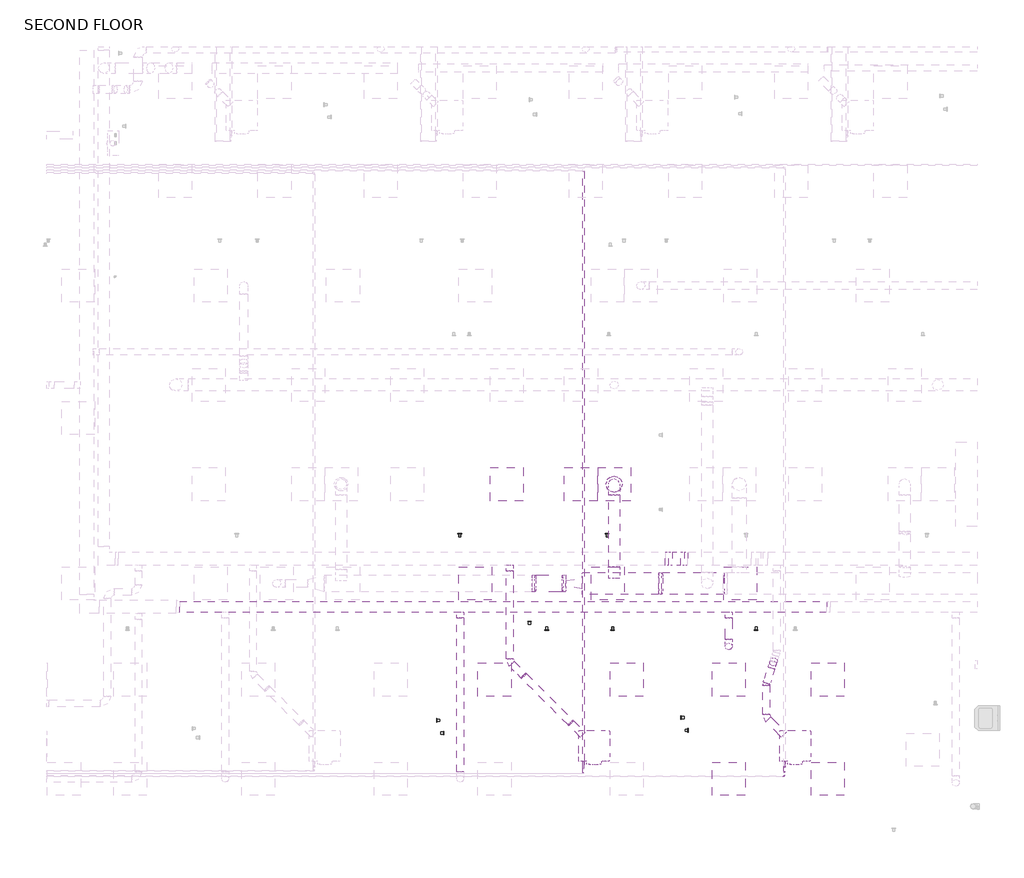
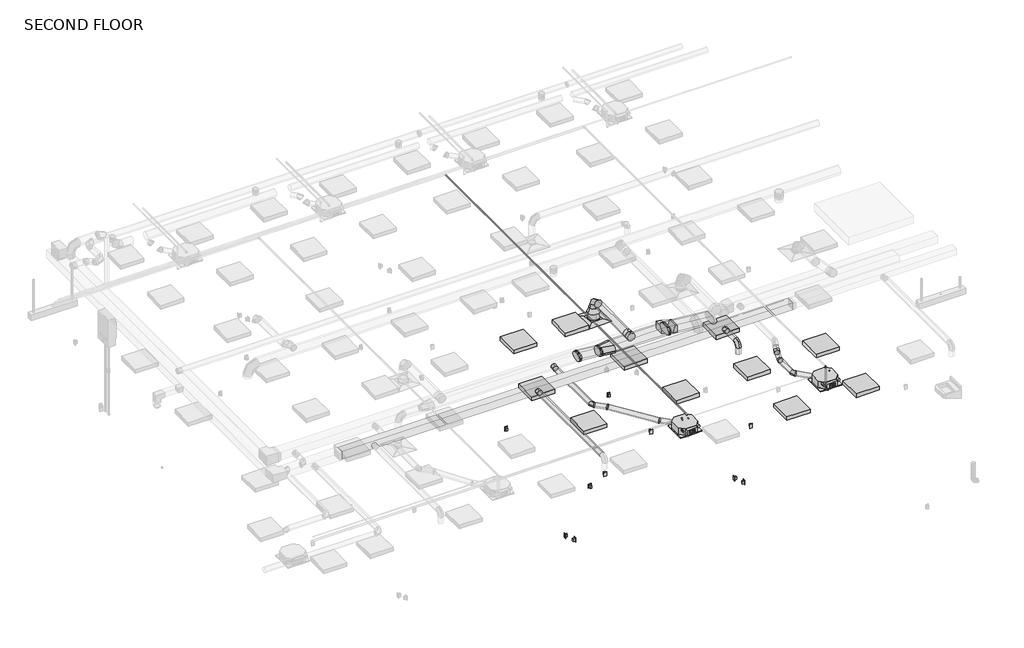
# One storey, part 3 of 12: 19 duct fittings, 18 duct segments, 11 light fixtures, 9 proxies, 6 pipe segments, 4 pipe fittings, 3 switching devices, 1 air terminal.
"""IFC4 building model written with IfcOpenShell, lengths in millimetres."""

from ifc_helpers import new_model, si_unit, point, frame, frame_2d, origin, place, context, project, spatial, polyline, circle_curve, trimmed, segment, composite_curve, outline, extrude, transform, mapped, element, save
from components import air_terminal_78ffba46, mechanical_equipment_2d84379e, duplex_receptacle_countertop_10251bba, oval_elbow_mitered_standard_5b12be7a, oval_elbow_mitered_standard_605f781d, oval_transition_length_standard_f0f2b33e, rectangular_elbow_radius_1_5_w_3731340f, round_elbow_1_d_01278626, round_elbow_1_d_075332d1, round_elbow_1_d_a253342a, round_elbow_1_d_c80420c1, round_elbow_1_d_e3dc691b, round_takeoff_standard_53c2403a, round_takeoff_standard_7fe2b2d5, round_transition_angle_45_degree_1597dbae, troffer_corner_insert_2x2_3lamp_e67c7f8f, elbow_generic_standard_c06ac706, elbow_generic_standard_a088f956

model = new_model("IFC4")

# Units and contexts
model_context = context("Model", 3, world=origin())
ifc_project = project(units=[si_unit("LENGTHUNIT", "METRE", prefix="MILLI")], contexts=[model_context])

# Site, building, storey
site = spatial("IfcSite", under=ifc_project)
building = spatial("IfcBuilding", under=site)
storey = spatial("IfcBuildingStorey", under=building, Name="SECOND FLOOR", Elevation=34544.0)

# Air terminal
placement = place(None, origin())
air_terminal_shape = air_terminal_78ffba46(model_context)
element("IfcAirTerminal", 1, ObjectType="Supply Diffuser - Rectangular Face Round Neck - Hosted : 24\"x24\" Face 12\" Neck - Hosted", at=placement, inside=storey, context=model_context, shape_type="MappedRepresentation", body=[
    mapped(air_terminal_shape, transform((3364.8670393, -751.4804995, 37287.2), x_axis=(-1.0, 0.0, 0.0), y_axis=(0.0, 1.0, 0.0), z_axis=(0.0, 0.0, -1.0))),
])

# Proxies
mechanical_equipment_shape = mechanical_equipment_2d84379e(model_context)
element("IfcBuildingElementProxy", 2, Name="PLFY-P-NCMU-E_4-way_24x24 : PLFY-P12NCMU-E", ObjectType="PLFY-P-NCMU-E_4-way_24x24 : PLFY-P12NCMU-E", at=placement, inside=storey, context=model_context, shape_type="MappedRepresentation", body=[
    mapped(mechanical_equipment_shape, transform((2996.0907893, -5508.0657082, 37287.2), x_axis=(-1.0, 0.0, 0.0), y_axis=(0.0, 1.0, 0.0), z_axis=(0.0, 0.0, -1.0))),
])
element("IfcBuildingElementProxy", 3, Name="PLFY-P-NCMU-E_4-way_24x24 : PLFY-P12NCMU-E", ObjectType="PLFY-P-NCMU-E_4-way_24x24 : PLFY-P12NCMU-E", at=placement, inside=storey, context=model_context, shape_type="MappedRepresentation", body=[
    mapped(mechanical_equipment_shape, transform((6698.9345393, -5508.0657082, 37287.2), x_axis=(-1.0, 0.0, 0.0), y_axis=(0.0, 1.0, 0.0), z_axis=(0.0, 0.0, -1.0))),
])
duplex_receptacle_countertop_shape = duplex_receptacle_countertop_10251bba(model_context)
element("IfcBuildingElementProxy", 4, Name="Duplex Receptacle : Standard", ObjectType="Duplex Receptacle : Standard", at=placement, inside=storey, context=model_context, shape_type="MappedRepresentation", body=[
    mapped(duplex_receptacle_countertop_shape, transform((101.6170393, -5102.6743878, 35001.2), x_axis=(0.0, -1.0, 0.0), y_axis=(0.0, 0.0, 1.0), z_axis=(-1.0, 0.0, 0.0))),
])
element("IfcBuildingElementProxy", 5, Name="Duplex Receptacle : Standard", ObjectType="Duplex Receptacle : Standard", at=placement, inside=storey, context=model_context, shape_type="MappedRepresentation", body=[
    mapped(duplex_receptacle_countertop_shape, transform((225.4420393, -5337.3044193, 35001.2), x_axis=(0.0, 1.0, 0.0), y_axis=(0.0, 0.0, 1.0), z_axis=(1.0, 0.0, 0.0))),
])
element("IfcBuildingElementProxy", 6, Name="Duplex Receptacle : Standard", ObjectType="Duplex Receptacle : Standard", at=placement, inside=storey, context=model_context, shape_type="MappedRepresentation", body=[
    mapped(duplex_receptacle_countertop_shape, transform((4601.6170393, -5052.3965239, 35001.2), x_axis=(0.0, -1.0, 0.0), y_axis=(0.0, 0.0, 1.0), z_axis=(-1.0, 0.0, 0.0))),
])
element("IfcBuildingElementProxy", 7, Name="Duplex Receptacle : Standard", ObjectType="Duplex Receptacle : Standard", at=placement, inside=storey, context=model_context, shape_type="MappedRepresentation", body=[
    mapped(duplex_receptacle_countertop_shape, transform((4725.4420393, -5287.0265554, 35001.2), x_axis=(0.0, 1.0, 0.0), y_axis=(0.0, 0.0, 1.0), z_axis=(1.0, 0.0, 0.0))),
])
element("IfcBuildingElementProxy", 8, Name="Duplex Receptacle : Standard", ObjectType="Duplex Receptacle : Standard", at=placement, inside=storey, context=model_context, shape_type="MappedRepresentation", body=[
    mapped(duplex_receptacle_countertop_shape, transform((2124.9845443, -3437.5304995, 35001.2), x_axis=(1.0, 0.0, 0.0), y_axis=(0.0, 0.0, 1.0), z_axis=(0.0, -1.0, 0.0))),
])
element("IfcBuildingElementProxy", 9, Name="Duplex Receptacle : Standard", ObjectType="Duplex Receptacle : Standard", at=placement, inside=storey, context=model_context, shape_type="MappedRepresentation", body=[
    mapped(duplex_receptacle_countertop_shape, transform((5979.6207761, -3437.5304995, 35001.2), x_axis=(1.0, 0.0, 0.0), y_axis=(0.0, 0.0, 1.0), z_axis=(0.0, -1.0, 0.0))),
])
element("IfcBuildingElementProxy", 10, Name="Duplex Receptacle : Standard", ObjectType="Duplex Receptacle : Standard", at=placement, inside=storey, context=model_context, shape_type="MappedRepresentation", body=[
    mapped(duplex_receptacle_countertop_shape, transform((1806.558073, -3281.9554995, 34696.4), x_axis=(-1.0, 0.0, 0.0), y_axis=(0.0, 0.0, 1.0), z_axis=(0.0, 1.0, 0.0))),
])

# Duct fittings
oval_elbow_mitered_standard_shape = oval_elbow_mitered_standard_5b12be7a(model_context)
element("IfcDuctFitting", 11, ObjectType="Oval Elbow - Mitered : Standard", at=placement, inside=storey, context=model_context, shape_type="MappedRepresentation", body=[
    mapped(oval_elbow_mitered_standard_shape, transform((2445.3076643, -2580.2804995, 37820.6), x_axis=(-1.0, 0.0, 0.0), y_axis=(0.0, 0.0, 1.0), z_axis=(0.0, 1.0, 0.0))),
])
element("IfcDuctFitting", 12, ObjectType="Oval Elbow - Mitered : Standard", at=placement, inside=storey, context=model_context, shape_type="MappedRepresentation", body=[
    mapped(oval_elbow_mitered_standard_shape, transform((1883.5093571, -2580.2804995, 37872.9293609), x_axis=(1.0, 0.0, 0.0), y_axis=(0.0, 0.0, -1.0), z_axis=(0.0, 1.0, 0.0))),
])
oval_elbow_mitered_standard_2_shape = oval_elbow_mitered_standard_605f781d(model_context)
element("IfcDuctFitting", 13, ObjectType="Oval Elbow - Mitered : Standard", at=placement, inside=storey, context=model_context, shape_type="MappedRepresentation", body=[
    mapped(oval_elbow_mitered_standard_2_shape, transform((4219.891752, -2580.2804995, 37820.6), x_axis=(1.0, 0.0, 0.0), y_axis=(0.0, 0.0, -1.0), z_axis=(0.0, 1.0, 0.0))),
])
oval_transition_length_standard_shape = oval_transition_length_standard_f0f2b33e(model_context)
element("IfcDuctFitting", 14, ObjectType="Oval Transition - Length : Standard", at=placement, inside=storey, context=model_context, shape_type="MappedRepresentation", body=[
    mapped(oval_transition_length_standard_shape, transform((2780.2292705, -2580.2804995, 37820.6), x_axis=(-1.0, 0.0, 0.0), y_axis=(0.0, -1.0, 0.0), z_axis=(0.0, 0.0, 1.0))),
])
rectangular_elbow_radius_1_5_w_shape = rectangular_elbow_radius_1_5_w_3731340f(model_context)
element("IfcDuctFitting", 15, ObjectType="Rectangular Elbow - Radius : 1.5 W", at=placement, inside=storey, context=model_context, shape_type="MappedRepresentation", body=[
    mapped(rectangular_elbow_radius_1_5_w_shape, transform((4671.7764464, -2123.0804995, 37439.6), x_axis=(-1.0, 0.0, 0.0), y_axis=(0.0, 0.0, 1.0), z_axis=(0.0, 1.0, 0.0))),
])
element("IfcDuctFitting", 16, ObjectType="Rectangular Elbow - Radius : 1.5 W", at=placement, inside=storey, context=model_context, shape_type="MappedRepresentation", body=[
    mapped(rectangular_elbow_radius_1_5_w_shape, transform((4358.7795985, -2123.0804995, 37541.2), x_axis=(1.0, 0.0, 0.0), y_axis=(0.0, 0.0, -1.0), z_axis=(0.0, 1.0, 0.0))),
])
round_elbow_1_d_shape = round_elbow_1_d_01278626(model_context)
element("IfcDuctFitting", 17, ObjectType="Round Elbow : 1 D", at=placement, inside=storey, context=model_context, shape_type="MappedRepresentation", body=[
    mapped(round_elbow_1_d_shape, transform((6168.7489409, -4436.9011511, 37381.259375), x_axis=(-0.3033014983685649, -0.9528946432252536, 0.0), y_axis=(0.9528946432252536, -0.3033014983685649, 0.0), z_axis=(0.0, 0.0, 1.0))),
])
round_elbow_1_d_2_shape = round_elbow_1_d_075332d1(model_context)
element("IfcDuctFitting", 18, ObjectType="Round Elbow : 1 D", at=placement, inside=storey, context=model_context, shape_type="MappedRepresentation", body=[
    mapped(round_elbow_1_d_2_shape, transform((1698.7492739, -4279.3452341, 37541.2), x_axis=(0.7071067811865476, -0.7071067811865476, 0.0), y_axis=(0.0, 0.0, -1.0000000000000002), z_axis=(0.7071067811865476, 0.7071067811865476, 0.0))),
])
element("IfcDuctFitting", 19, ObjectType="Round Elbow : 1 D", at=placement, inside=storey, context=model_context, shape_type="MappedRepresentation", body=[
    mapped(round_elbow_1_d_2_shape, transform((2569.7985692, -5150.3945294, 37381.2593852), x_axis=(0.7012209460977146, -0.7012209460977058, -0.12875701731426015), y_axis=(0.09104496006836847, -0.09104496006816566, 0.9916761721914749), z_axis=(-0.7071067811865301, -0.707106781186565, 0.0))),
])
round_elbow_1_d_3_shape = round_elbow_1_d_a253342a(model_context)
element("IfcDuctFitting", 20, ObjectType="Round Elbow : 1 D", at=placement, inside=storey, context=model_context, shape_type="MappedRepresentation", body=[
    mapped(round_elbow_1_d_3_shape, transform((3364.8670393, -751.4804995, 37820.6), x_axis=(0.0, 0.0, 1.0), y_axis=(0.0, -1.0, 0.0), z_axis=(1.0, 0.0, 0.0))),
])
round_elbow_1_d_4_shape = round_elbow_1_d_c80420c1(model_context)
element("IfcDuctFitting", 21, ObjectType="Round Elbow : 1 D", at=placement, inside=storey, context=model_context, shape_type="MappedRepresentation", body=[
    mapped(round_elbow_1_d_4_shape, transform((5474.1782893, -3742.3304995, 37693.6), x_axis=(0.0, 0.0, 1.0), y_axis=(0.0, 1.0, 0.0), z_axis=(-1.0, 0.0, 0.0))),
])
round_elbow_1_d_5_shape = round_elbow_1_d_e3dc691b(model_context)
element("IfcDuctFitting", 22, ObjectType="Round Elbow : 1 D", at=placement, inside=storey, context=model_context, shape_type="MappedRepresentation", body=[
    mapped(round_elbow_1_d_5_shape, transform((1442.1559931, -4022.7519533, 37541.2), x_axis=(0.0, -1.0, 0.0), y_axis=(1.0, 0.0, 0.0), z_axis=(0.0, 0.0, 1.0))),
])
element("IfcDuctFitting", 23, ObjectType="Round Elbow : 1 D", at=placement, inside=storey, context=model_context, shape_type="MappedRepresentation", body=[
    mapped(round_elbow_1_d_5_shape, transform((6168.7489409, -5046.5011511, 37381.259375), x_axis=(0.0, -1.0, 0.0), y_axis=(0.9999999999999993, 0.0, 3.167850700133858e-08), z_axis=(-3.167850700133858e-08, 0.0, 0.9999999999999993))),
])
element("IfcDuctFitting", 24, ObjectType="Round Elbow : 1 D", at=placement, inside=storey, context=model_context, shape_type="MappedRepresentation", body=[
    mapped(round_elbow_1_d_5_shape, transform((6279.2252508, -4089.8132385, 37381.259375), x_axis=(-0.21446654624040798, -0.6737982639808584, -0.707106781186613), y_axis=(-0.21446654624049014, -0.6737982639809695, 0.7071067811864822), z_axis=(-0.9528946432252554, 0.3033014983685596, 0.0))),
])
round_takeoff_standard_shape = round_takeoff_standard_53c2403a(model_context)
element("IfcDuctFitting", 25, ObjectType="Round Takeoff : Standard", at=placement, inside=storey, context=model_context, shape_type="MappedRepresentation", body=[
    mapped(round_takeoff_standard_shape, transform((3364.8670393, -2377.0804995, 37820.6), x_axis=(0.0, 1.0, 0.0), y_axis=(1.0, 0.0, 0.0), z_axis=(0.0, 0.0, -1.0))),
])
round_takeoff_standard_2_shape = round_takeoff_standard_7fe2b2d5(model_context)
element("IfcDuctFitting", 26, ObjectType="Round Takeoff : Standard", at=placement, inside=storey, context=model_context, shape_type="MappedRepresentation", body=[
    mapped(round_takeoff_standard_2_shape, transform((5474.1782893, -3111.8706668, 37693.6), x_axis=(0.0, -1.0, 0.0), y_axis=(-1.0, 0.0, 0.0), z_axis=(0.0, 0.0, -1.0))),
])
element("IfcDuctFitting", 27, ObjectType="Round Takeoff : Standard", at=placement, inside=storey, context=model_context, shape_type="MappedRepresentation", body=[
    mapped(round_takeoff_standard_2_shape, transform((530.2420393, -3111.8706668, 37693.6), x_axis=(0.0, -1.0, 0.0), y_axis=(-1.0, 0.0, 0.0), z_axis=(0.0, 0.0, -1.0))),
])
element("IfcDuctFitting", 28, ObjectType="Round Takeoff : Standard", at=placement, inside=storey, context=model_context, shape_type="MappedRepresentation", body=[
    mapped(round_takeoff_standard_2_shape, transform((1442.1559931, -2250.0804995, 37541.2), x_axis=(0.0, -1.0, 0.0), y_axis=(-1.0, 0.0, 0.0), z_axis=(0.0, 0.0, -1.0))),
])
round_transition_angle_45_degree_shape = round_transition_angle_45_degree_1597dbae(model_context)
element("IfcDuctFitting", 29, ObjectType="Round Transition - Angle : 45 Degree", at=placement, inside=storey, context=model_context, shape_type="MappedRepresentation", body=[
    mapped(round_transition_angle_45_degree_shape, transform((3364.8670393, -751.4804995, 37494.757951), x_axis=(0.0, 0.0, 1.0), y_axis=(1.0, 0.0, 0.0), z_axis=(0.0, 1.0, 0.0))),
])

# Duct segments
element("IfcDuctSegment", 30, ObjectType="Mitered Elbows / Taps", at=placement, inside=storey, context=model_context, shape_type="SweptSolid", body=[
    extrude(outline(composite_curve([segment(trimmed(circle_curve(frame_2d((-2478.6804995, 37820.6)), 101.6), [point((-2478.6804995, 37922.2))], [point((-2377.0804995, 37820.6))], False, "CARTESIAN"), True, "CONTINUOUS"), segment(trimmed(circle_curve(frame_2d((-2478.6804995, 37820.6)), 101.6), [point((-2377.0804995, 37820.6))], [point((-2478.6804995, 37719.0))], False, "CARTESIAN"), True, "CONTINUOUS"), segment(polyline([(-2478.6804995, 37719.0), (-2681.8804995, 37719.0)]), True, "CONTINUOUS"), segment(trimmed(circle_curve(frame_2d((-2681.8804995, 37820.6)), 101.6), [point((-2681.8804995, 37719.0))], [point((-2783.4804995, 37820.6))], False, "CARTESIAN"), True, "CONTINUOUS"), segment(trimmed(circle_curve(frame_2d((-2681.8804995, 37820.6)), 101.6), [point((-2783.4804995, 37820.6))], [point((-2681.8804995, 37922.2))], False, "CARTESIAN"), True, "CONTINUOUS"), segment(polyline([(-2681.8804995, 37922.2), (-2478.6804995, 37922.2)]), True, "CONTINUOUS")], self_intersect=False)), frame((2780.2292705, 0.0, 0.0), z_axis=(1.0, 0.0, 0.0), x_axis=(0.0, 1.0, 0.0)), (0.0, 0.0, 1.0), 1409.6291269),
])
element("IfcDuctSegment", 31, ObjectType="Mitered Elbows / Taps", at=placement, inside=storey, context=model_context, shape_type="SweptSolid", body=[
    extrude(outline(polyline([(-4638.1666561, -3111.8706668), (-4638.1666561, -2908.6706668), (7283.5019781, -2908.6706668), (7283.5019781, -3111.8706668), (-4638.1666561, -3111.8706668)])), frame((0.0, 0.0, 37592.0), z_axis=(0.0, 0.0, 1.0), x_axis=(1.0, 0.0, 0.0)), (0.0, 0.0, 1.0), 203.2),
])
element("IfcDuctSegment", 32, ObjectType="Mitered Elbows / Taps", at=placement, inside=storey, context=model_context, shape_type="SweptSolid", body=[
    extrude(outline(composite_curve([segment(polyline([(101.6000001, 203.2), (101.6000001, 101.6)]), True, "CONTINUOUS"), segment(trimmed(circle_curve(frame_2d((0.0, 101.6)), 101.6), [point((101.6000001, 101.6))], [point((0.0, 0.0))], False, "CARTESIAN"), True, "CONTINUOUS"), segment(trimmed(circle_curve(frame_2d((0.0, 101.6)), 101.6), [point((0.0, 0.0))], [point((-101.6, 101.6))], False, "CARTESIAN"), True, "CONTINUOUS"), segment(polyline([(-101.6, 101.6), (-101.6, 203.2)]), True, "CONTINUOUS"), segment(trimmed(circle_curve(frame_2d((0.0, 203.2)), 101.6), [point((-101.6, 203.2))], [point((0.0, 304.8))], False, "CARTESIAN"), True, "CONTINUOUS"), segment(trimmed(circle_curve(frame_2d((0.0, 203.2)), 101.6), [point((0.0, 304.8))], [point((101.6000001, 203.2))], False, "CARTESIAN"), True, "CONTINUOUS")], self_intersect=False)), frame((2415.3158846, -2732.6804995, 37823.3936194), z_axis=(-0.9956899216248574, 0.0, 0.09274470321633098), x_axis=(0.09274470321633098, 0.0, 0.9956899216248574)), (0.0, 0.0, 1.0), 503.9869712),
])
element("IfcDuctSegment", 33, ObjectType="Mitered Elbows / Taps", at=placement, inside=storey, context=model_context, shape_type="SweptSolid", body=[
    extrude(outline(composite_curve([segment(polyline([(101.6, 304.8), (101.6, 101.6)]), True, "CONTINUOUS"), segment(trimmed(circle_curve(frame_2d((0.0, 101.6)), 101.6), [point((101.6, 101.6))], [point((0.0, 0.0))], False, "CARTESIAN"), True, "CONTINUOUS"), segment(trimmed(circle_curve(frame_2d((0.0, 101.6)), 101.6), [point((0.0, 0.0))], [point((-101.6000001, 101.6))], False, "CARTESIAN"), True, "CONTINUOUS"), segment(polyline([(-101.6000001, 101.6), (-101.6000001, 304.8)]), True, "CONTINUOUS"), segment(trimmed(circle_curve(frame_2d((0.0, 304.8)), 101.6), [point((-101.6000001, 304.8))], [point((0.0, 406.4))], False, "CARTESIAN"), True, "CONTINUOUS"), segment(trimmed(circle_curve(frame_2d((0.0, 304.8)), 101.6), [point((0.0, 406.4))], [point((101.6, 304.8))], False, "CARTESIAN"), True, "CONTINUOUS")], self_intersect=False)), frame((5387.0654619, -2783.4804995, 37713.922833), z_axis=(-0.9958492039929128, 0.0, 0.09101847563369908), x_axis=(0.09101847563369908, 0.0, 0.9958492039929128)), (0.0, 0.0, 1.0), 1142.0052485),
])
element("IfcDuctSegment", 34, ObjectType="Radius Elbows / Taps", at=placement, inside=storey, context=model_context, shape_type="SweptSolid", body=[
    extrude(outline(polyline([(0.0, -254.0), (0.0, 0.0), (232.6119283, 0.0), (232.6119283, -254.0), (0.0, -254.0)])), frame((4594.533307, -2250.0804995, 37357.8547731), z_axis=(0.30874530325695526, 0.0, 0.9511447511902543), x_axis=(-0.9511447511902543, 0.0, 0.30874530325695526)), (0.0, 0.0, 1.0), 203.2),
])
element("IfcDuctSegment", 35, ObjectType="Taps / Short Radius", at=placement, inside=storey, context=model_context, shape_type="SweptSolid", body=[
    extrude(outline(composite_curve([segment(trimmed(circle_curve(frame_2d((37820.6, 3364.8670393)), 101.6), [point((37820.6, 3263.2670393))], [point((37719.0, 3364.8670393))], False, "CARTESIAN"), True, "CONTINUOUS"), segment(trimmed(circle_curve(frame_2d((37820.6, 3364.8670393)), 101.6), [point((37719.0, 3364.8670393))], [point((37820.6, 3466.4670393))], False, "CARTESIAN"), True, "CONTINUOUS"), segment(trimmed(circle_curve(frame_2d((37820.6, 3364.8670393)), 101.6), [point((37820.6, 3466.4670393))], [point((37922.2, 3364.8670393))], False, "CARTESIAN"), True, "CONTINUOUS"), segment(trimmed(circle_curve(frame_2d((37820.6, 3364.8670393)), 101.6), [point((37922.2, 3364.8670393))], [point((37820.6, 3263.2670393))], False, "CARTESIAN"), True, "CONTINUOUS")], self_intersect=False)), frame((0.0, -2275.4804995, 0.0), z_axis=(0.0, 1.0, 0.0), x_axis=(0.0, 0.0, 1.0)), (0.0, 0.0, 1.0), 1320.8),
])
element("IfcDuctSegment", 36, ObjectType="Taps / Short Radius", at=placement, inside=storey, context=model_context, shape_type="SweptSolid", body=[
    extrude(outline(composite_curve([segment(trimmed(circle_curve(frame_2d((37693.6, 5474.1782893)), 63.5), [point((37693.6, 5410.6782893))], [point((37630.1, 5474.1782893))], False, "CARTESIAN"), True, "CONTINUOUS"), segment(trimmed(circle_curve(frame_2d((37693.6, 5474.1782893)), 63.5), [point((37630.1, 5474.1782893))], [point((37693.6, 5537.6782893))], False, "CARTESIAN"), True, "CONTINUOUS"), segment(trimmed(circle_curve(frame_2d((37693.6, 5474.1782893)), 63.5), [point((37693.6, 5537.6782893))], [point((37757.1, 5474.1782893))], False, "CARTESIAN"), True, "CONTINUOUS"), segment(trimmed(circle_curve(frame_2d((37693.6, 5474.1782893)), 63.5), [point((37757.1, 5474.1782893))], [point((37693.6, 5410.6782893))], False, "CARTESIAN"), True, "CONTINUOUS")], self_intersect=False)), frame((0.0, -3615.3304995, 0.0), z_axis=(0.0, 1.0, 0.0), x_axis=(0.0, 0.0, 1.0)), (0.0, 0.0, 1.0), 401.8598327),
])
element("IfcDuctSegment", 37, ObjectType="Taps / Short Radius", at=placement, inside=storey, context=model_context, shape_type="SweptSolid", body=[
    extrude(outline(composite_curve([segment(trimmed(circle_curve(frame_2d((5474.1782893, -3742.3304995)), 63.5), [point((5537.6782893, -3742.3304995))], [point((5474.1782893, -3805.8304995))], False, "CARTESIAN"), True, "CONTINUOUS"), segment(trimmed(circle_curve(frame_2d((5474.1782893, -3742.3304995)), 63.5), [point((5474.1782893, -3805.8304995))], [point((5410.6782893, -3742.3304995))], False, "CARTESIAN"), True, "CONTINUOUS"), segment(trimmed(circle_curve(frame_2d((5474.1782893, -3742.3304995)), 63.5), [point((5410.6782893, -3742.3304995))], [point((5474.1782893, -3678.8304995))], False, "CARTESIAN"), True, "CONTINUOUS"), segment(trimmed(circle_curve(frame_2d((5474.1782893, -3742.3304995)), 63.5), [point((5474.1782893, -3678.8304995))], [point((5537.6782893, -3742.3304995))], False, "CARTESIAN"), True, "CONTINUOUS")], self_intersect=False)), frame((0.0, 0.0, 37388.8), z_axis=(0.0, 0.0, 1.0), x_axis=(1.0, 0.0, 0.0)), (0.0, 0.0, 1.0), 177.8),
])
element("IfcDuctSegment", 38, ObjectType="Taps / Short Radius", at=placement, inside=storey, context=model_context, shape_type="SweptSolid", body=[
    extrude(outline(composite_curve([segment(trimmed(circle_curve(frame_2d((37693.6, 530.2420393)), 63.5), [point((37693.6, 466.7420393))], [point((37630.1, 530.2420393))], False, "CARTESIAN"), True, "CONTINUOUS"), segment(trimmed(circle_curve(frame_2d((37693.6, 530.2420393)), 63.5), [point((37630.1, 530.2420393))], [point((37693.6, 593.7420393))], False, "CARTESIAN"), True, "CONTINUOUS"), segment(trimmed(circle_curve(frame_2d((37693.6, 530.2420393)), 63.5), [point((37693.6, 593.7420393))], [point((37757.1, 530.2420393))], False, "CARTESIAN"), True, "CONTINUOUS"), segment(trimmed(circle_curve(frame_2d((37693.6, 530.2420393)), 63.5), [point((37757.1, 530.2420393))], [point((37693.6, 466.7420393))], False, "CARTESIAN"), True, "CONTINUOUS")], self_intersect=False)), frame((0.0, -6053.7304995, 0.0), z_axis=(0.0, 1.0, 0.0), x_axis=(0.0, 0.0, 1.0)), (0.0, 0.0, 1.0), 2840.2598327),
])
element("IfcDuctSegment", 39, ObjectType="Taps / Short Radius", at=placement, inside=storey, context=model_context, shape_type="SweptSolid", body=[
    extrude(outline(composite_curve([segment(trimmed(circle_curve(frame_2d((37541.2, 1442.1559931)), 63.5), [point((37541.2, 1378.6559931))], [point((37477.7, 1442.1559931))], False, "CARTESIAN"), True, "CONTINUOUS"), segment(trimmed(circle_curve(frame_2d((37541.2, 1442.1559931)), 63.5), [point((37477.7, 1442.1559931))], [point((37541.2, 1505.6559931))], False, "CARTESIAN"), True, "CONTINUOUS"), segment(trimmed(circle_curve(frame_2d((37541.2, 1442.1559931)), 63.5), [point((37541.2, 1505.6559931))], [point((37604.7, 1442.1559931))], False, "CARTESIAN"), True, "CONTINUOUS"), segment(trimmed(circle_curve(frame_2d((37541.2, 1442.1559931)), 63.5), [point((37604.7, 1442.1559931))], [point((37541.2, 1378.6559931))], False, "CARTESIAN"), True, "CONTINUOUS")], self_intersect=False)), frame((0.0, -3970.1468308, 0.0), z_axis=(0.0, 1.0, 0.0), x_axis=(0.0, 0.0, 1.0)), (0.0, 0.0, 1.0), 1618.4663314),
])
element("IfcDuctSegment", 40, ObjectType="Taps / Short Radius", at=placement, inside=storey, context=model_context, shape_type="SweptSolid", body=[
    extrude(outline(composite_curve([segment(trimmed(circle_curve(frame_2d((3364.8670393, -751.4804995)), 152.4), [point((3517.2670393, -751.4804995))], [point((3364.8670393, -903.8804995))], False, "CARTESIAN"), True, "CONTINUOUS"), segment(trimmed(circle_curve(frame_2d((3364.8670393, -751.4804995)), 152.4), [point((3364.8670393, -903.8804995))], [point((3212.4670393, -751.4804995))], False, "CARTESIAN"), True, "CONTINUOUS"), segment(trimmed(circle_curve(frame_2d((3364.8670393, -751.4804995)), 152.4), [point((3212.4670393, -751.4804995))], [point((3364.8670393, -599.0804995))], False, "CARTESIAN"), True, "CONTINUOUS"), segment(trimmed(circle_curve(frame_2d((3364.8670393, -751.4804995)), 152.4), [point((3364.8670393, -599.0804995))], [point((3517.2670393, -751.4804995))], False, "CARTESIAN"), True, "CONTINUOUS")], self_intersect=False)), frame((0.0, 0.0, 37341.175), z_axis=(0.0, 0.0, 1.0), x_axis=(1.0, 0.0, 0.0)), (0.0, 0.0, 1.0), 153.582951),
])
element("IfcDuctSegment", 41, ObjectType="Taps / Short Radius", at=placement, inside=storey, context=model_context, shape_type="SweptSolid", body=[
    extrude(outline(composite_curve([segment(trimmed(circle_curve(frame_2d((0.0, 63.5)), 63.5), [point((63.5, 63.5))], [point((0.0, 0.0))], False, "CARTESIAN"), True, "CONTINUOUS"), segment(trimmed(circle_curve(frame_2d((0.0, 63.5)), 63.5), [point((0.0, 0.0))], [point((-63.5, 63.5))], False, "CARTESIAN"), True, "CONTINUOUS"), segment(trimmed(circle_curve(frame_2d((0.0, 63.5)), 63.5), [point((-63.5, 63.5))], [point((0.0, 127.0))], False, "CARTESIAN"), True, "CONTINUOUS"), segment(trimmed(circle_curve(frame_2d((0.0, 63.5)), 63.5), [point((0.0, 127.0))], [point((63.5, 63.5))], False, "CARTESIAN"), True, "CONTINUOUS")], self_intersect=False)), frame((6492.0381612, -5369.7903714, 37444.7593852), z_axis=(-0.7071067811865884, 0.7071067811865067, 0.0), x_axis=(0.7071067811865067, 0.7071067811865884, 0.0)), (0.0, 0.0, 1.0), 404.5948776),
])
element("IfcDuctSegment", 42, ObjectType="Taps / Short Radius", at=placement, inside=storey, context=model_context, shape_type="SweptSolid", body=[
    extrude(outline(composite_curve([segment(trimmed(circle_curve(frame_2d((37381.259375, 6168.7489409)), 63.5), [point((37381.259375, 6232.2489409))], [point((37444.759375, 6168.7489409))], False, "CARTESIAN"), True, "CONTINUOUS"), segment(trimmed(circle_curve(frame_2d((37381.259375, 6168.7489409)), 63.5), [point((37444.759375, 6168.7489409))], [point((37381.259375, 6105.2489409))], False, "CARTESIAN"), True, "CONTINUOUS"), segment(trimmed(circle_curve(frame_2d((37381.259375, 6168.7489409)), 63.5), [point((37381.259375, 6105.2489409))], [point((37317.759375, 6168.7489409))], False, "CARTESIAN"), True, "CONTINUOUS"), segment(trimmed(circle_curve(frame_2d((37381.259375, 6168.7489409)), 63.5), [point((37317.759375, 6168.7489409))], [point((37381.259375, 6232.2489409))], False, "CARTESIAN"), True, "CONTINUOUS")], self_intersect=False)), frame((0.0, -4993.8960286, 0.0), z_axis=(0.0, 1.0, 0.0), x_axis=(0.0, 0.0, 1.0)), (0.0, 0.0, 1.0), 537.2706746),
])
element("IfcDuctSegment", 43, ObjectType="Taps / Short Radius", at=placement, inside=storey, context=model_context, shape_type="SweptSolid", body=[
    extrude(outline(composite_curve([segment(trimmed(circle_curve(frame_2d((0.0, -63.5)), 63.5), [point((-63.5, -63.5))], [point((0.0, 0.0))], False, "CARTESIAN"), True, "CONTINUOUS"), segment(trimmed(circle_curve(frame_2d((0.0, -63.5)), 63.5), [point((0.0, 0.0))], [point((63.5, -63.5))], False, "CARTESIAN"), True, "CONTINUOUS"), segment(trimmed(circle_curve(frame_2d((0.0, -63.5)), 63.5), [point((63.5, -63.5))], [point((0.0, -127.0))], False, "CARTESIAN"), True, "CONTINUOUS"), segment(trimmed(circle_curve(frame_2d((0.0, -63.5)), 63.5), [point((0.0, -127.0))], [point((-63.5, -63.5))], False, "CARTESIAN"), True, "CONTINUOUS")], self_intersect=False)), frame((6174.7313212, -4418.1060637, 37317.759375), z_axis=(0.3033014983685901, 0.9528946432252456, 0.0), x_axis=(0.9528946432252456, -0.3033014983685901, 0.0)), (0.0, 0.0, 1.0), 291.9165176),
])
element("IfcDuctSegment", 44, ObjectType="Taps / Short Radius", at=placement, inside=storey, context=model_context, shape_type="SweptSolid", body=[
    extrude(outline(composite_curve([segment(trimmed(circle_curve(frame_2d((0.0, -63.5)), 63.5), [point((61.9503108, -77.4430621))], [point((-13.9430621, -125.4503108))], False, "CARTESIAN"), True, "CONTINUOUS"), segment(trimmed(circle_curve(frame_2d((0.0, -63.5)), 63.5), [point((-13.9430621, -125.4503108))], [point((-61.9503109, -49.5569378))], False, "CARTESIAN"), True, "CONTINUOUS"), segment(trimmed(circle_curve(frame_2d((0.0, -63.5)), 63.5), [point((-61.9503109, -49.5569378))], [point((13.943062, -1.5496891))], False, "CARTESIAN"), True, "CONTINUOUS"), segment(trimmed(circle_curve(frame_2d((0.0, -63.5)), 63.5), [point((13.943062, -1.5496891))], [point((61.9503108, -77.4430621))], False, "CARTESIAN"), True, "CONTINUOUS")], self_intersect=False)), frame((6290.5072898, -4008.3970347, 37374.6513289), z_axis=(0.21446654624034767, 0.67379826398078, 0.707106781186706), x_axis=(0.9767313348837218, -0.1479497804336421, -0.15526352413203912)), (0.0, 0.0, 1.0), 85.0589317),
])
element("IfcDuctSegment", 45, ObjectType="Taps / Short Radius", at=placement, inside=storey, context=model_context, shape_type="SweptSolid", body=[
    extrude(outline(composite_curve([segment(trimmed(circle_curve(frame_2d((0.0, -63.5)), 63.5), [point((-63.5000001, -63.5))], [point((0.0, 0.0))], False, "CARTESIAN"), True, "CONTINUOUS"), segment(trimmed(circle_curve(frame_2d((0.0, -63.5)), 63.5), [point((0.0, 0.0))], [point((63.5, -63.5))], False, "CARTESIAN"), True, "CONTINUOUS"), segment(trimmed(circle_curve(frame_2d((0.0, -63.5)), 63.5), [point((63.5, -63.5))], [point((0.0, -127.0))], False, "CARTESIAN"), True, "CONTINUOUS"), segment(trimmed(circle_curve(frame_2d((0.0, -63.5)), 63.5), [point((0.0, -127.0))], [point((-63.5000001, -63.5))], False, "CARTESIAN"), True, "CONTINUOUS")], self_intersect=False)), frame((1692.9437569, -4273.539717, 37477.7), z_axis=(-0.7071067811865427, 0.7071067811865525, 0.0), x_axis=(0.7071067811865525, 0.7071067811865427, 0.0)), (0.0, 0.0, 1.0), 302.0623344),
])
element("IfcDuctSegment", 46, ObjectType="Taps / Short Radius", at=placement, inside=storey, context=model_context, shape_type="SweptSolid", body=[
    extrude(outline(composite_curve([segment(trimmed(circle_curve(frame_2d((0.0, -63.5)), 63.5), [point((-62.9800923, -71.6091289))], [point((-8.1091289, -0.5199076))], False, "CARTESIAN"), True, "CONTINUOUS"), segment(trimmed(circle_curve(frame_2d((0.0, -63.5)), 63.5), [point((-8.1091289, -0.5199076))], [point((62.9800923, -55.3908712))], False, "CARTESIAN"), True, "CONTINUOUS"), segment(trimmed(circle_curve(frame_2d((0.0, -63.5)), 63.5), [point((62.9800923, -55.3908712))], [point((8.1091288, -126.4800923))], False, "CARTESIAN"), True, "CONTINUOUS"), segment(trimmed(circle_curve(frame_2d((0.0, -63.5)), 63.5), [point((8.1091288, -126.4800923))], [point((-62.9800923, -71.6091289))], False, "CARTESIAN"), True, "CONTINUOUS")], self_intersect=False)), frame((2564.0413763, -5133.1692965, 37319.8606545), z_axis=(-0.7012209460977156, 0.7012209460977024, 0.1287570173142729), x_axis=(0.7129440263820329, 0.6896906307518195, 0.12663984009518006)), (0.0, 0.0, 1.0), 1225.7690166),
])
element("IfcDuctSegment", 47, ObjectType="Taps / Short Radius", at=placement, inside=storey, context=model_context, shape_type="SweptSolid", body=[
    extrude(outline(composite_curve([segment(trimmed(circle_curve(frame_2d((0.0, -63.5)), 63.5), [point((-63.5, -63.5))], [point((0.0, 0.0))], False, "CARTESIAN"), True, "CONTINUOUS"), segment(trimmed(circle_curve(frame_2d((0.0, -63.5)), 63.5), [point((0.0, 0.0))], [point((63.5, -63.5))], False, "CARTESIAN"), True, "CONTINUOUS"), segment(trimmed(circle_curve(frame_2d((0.0, -63.5)), 63.5), [point((63.5, -63.5))], [point((0.0, -127.0))], False, "CARTESIAN"), True, "CONTINUOUS"), segment(trimmed(circle_curve(frame_2d((0.0, -63.5)), 63.5), [point((0.0, -127.0))], [point((-63.5, -63.5))], False, "CARTESIAN"), True, "CONTINUOUS")], self_intersect=False)), frame((2789.1944112, -5369.7903714, 37317.7593852), z_axis=(-0.7071067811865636, 0.7071067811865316, 0.0), x_axis=(0.7071067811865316, 0.7071067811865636, 0.0)), (0.0, 0.0, 1.0), 302.0623344),
])

# Light fixtures
troffer_corner_insert_2x2_3lamp_shape = troffer_corner_insert_2x2_3lamp_e67c7f8f(model_context)
element("IfcLightFixture", 48, ObjectType="Troffer Corner Insert : 2x2 3Lamp", at=placement, inside=storey, context=model_context, shape_type="MappedRepresentation", body=[
    mapped(troffer_corner_insert_2x2_3lamp_shape, transform((5474.1782893, -4351.9304995, 34848.8), x_axis=(1.0, 0.0, 0.0), y_axis=(0.0, 1.0, 0.0), z_axis=(0.0, 0.0, 1.0))),
])
element("IfcLightFixture", 49, ObjectType="Troffer Corner Insert : 2x2 3Lamp", at=placement, inside=storey, context=model_context, shape_type="MappedRepresentation", body=[
    mapped(troffer_corner_insert_2x2_3lamp_shape, transform((5474.1782893, -6180.7304995, 34848.8), x_axis=(1.0, 0.0, 0.0), y_axis=(0.0, 1.0, 0.0), z_axis=(0.0, 0.0, 1.0))),
])
element("IfcLightFixture", 50, ObjectType="Troffer Corner Insert : 2x2 3Lamp", at=placement, inside=storey, context=model_context, shape_type="MappedRepresentation", body=[
    mapped(troffer_corner_insert_2x2_3lamp_shape, transform((7302.9782893, -4351.9304995, 34848.8), x_axis=(1.0, 0.0, 0.0), y_axis=(0.0, 1.0, 0.0), z_axis=(0.0, 0.0, 1.0))),
])
element("IfcLightFixture", 51, ObjectType="Troffer Corner Insert : 2x2 3Lamp", at=placement, inside=storey, context=model_context, shape_type="MappedRepresentation", body=[
    mapped(troffer_corner_insert_2x2_3lamp_shape, transform((1161.7345393, -4351.9304995, 34848.8), x_axis=(1.0, 0.0, 0.0), y_axis=(0.0, 1.0, 0.0), z_axis=(0.0, 0.0, 1.0))),
])
element("IfcLightFixture", 52, ObjectType="Troffer Corner Insert : 2x2 3Lamp", at=placement, inside=storey, context=model_context, shape_type="MappedRepresentation", body=[
    mapped(troffer_corner_insert_2x2_3lamp_shape, transform((3600.1345393, -4351.9304995, 34848.8), x_axis=(1.0, 0.0, 0.0), y_axis=(0.0, 1.0, 0.0), z_axis=(0.0, 0.0, 1.0))),
])
element("IfcLightFixture", 53, ObjectType="Troffer Corner Insert : 2x2 3Lamp", at=placement, inside=storey, context=model_context, shape_type="MappedRepresentation", body=[
    mapped(troffer_corner_insert_2x2_3lamp_shape, transform((810.5795393, -2580.2804995, 34848.8), x_axis=(1.0, 0.0, 0.0), y_axis=(0.0, 1.0, 0.0), z_axis=(0.0, 0.0, 1.0))),
])
element("IfcLightFixture", 54, ObjectType="Troffer Corner Insert : 2x2 3Lamp", at=placement, inside=storey, context=model_context, shape_type="MappedRepresentation", body=[
    mapped(troffer_corner_insert_2x2_3lamp_shape, transform((3248.9795393, -2580.2804995, 34848.8), x_axis=(1.0, 0.0, 0.0), y_axis=(0.0, 1.0, 0.0), z_axis=(0.0, 0.0, 1.0))),
])
element("IfcLightFixture", 55, ObjectType="Troffer Corner Insert : 2x2 3Lamp", at=placement, inside=storey, context=model_context, shape_type="MappedRepresentation", body=[
    mapped(troffer_corner_insert_2x2_3lamp_shape, transform((5687.3795393, -2580.2804995, 34848.8), x_axis=(1.0, 0.0, 0.0), y_axis=(0.0, 1.0, 0.0), z_axis=(0.0, 0.0, 1.0))),
])
element("IfcLightFixture", 56, ObjectType="Troffer Corner Insert : 2x2 3Lamp", at=placement, inside=storey, context=model_context, shape_type="MappedRepresentation", body=[
    mapped(troffer_corner_insert_2x2_3lamp_shape, transform((1387.6357893, -751.4804995, 34848.8), x_axis=(1.0, 0.0, 0.0), y_axis=(0.0, 1.0, 0.0), z_axis=(0.0, 0.0, 1.0))),
])
element("IfcLightFixture", 57, ObjectType="Troffer Corner Insert : 2x2 3Lamp", at=placement, inside=storey, context=model_context, shape_type="MappedRepresentation", body=[
    mapped(troffer_corner_insert_2x2_3lamp_shape, transform((2755.2670393, -751.4804995, 34848.8), x_axis=(1.0, 0.0, 0.0), y_axis=(0.0, 1.0, 0.0), z_axis=(0.0, 0.0, 1.0))),
])
element("IfcLightFixture", 58, ObjectType="Troffer Corner Insert : 2x2 3Lamp", at=placement, inside=storey, context=model_context, shape_type="MappedRepresentation", body=[
    mapped(troffer_corner_insert_2x2_3lamp_shape, transform((7302.9782893, -6180.7304995, 34848.8), x_axis=(1.0, 0.0, 0.0), y_axis=(0.0, 1.0, 0.0), z_axis=(0.0, 0.0, 1.0))),
])

# Pipe fittings
elbow_generic_standard_shape = elbow_generic_standard_c06ac706(model_context)
element("IfcPipeFitting", 59, ObjectType="Elbow - Generic : Standard", at=placement, inside=storey, context=model_context, shape_type="MappedRepresentation", body=[
    mapped(elbow_generic_standard_shape, transform((6500.4970393, -5960.9821348, 37998.4), x_axis=(0.0, 0.0, 1.0), y_axis=(0.0, 1.0, 0.0), z_axis=(-1.0, 0.0, 0.0))),
])
element("IfcPipeFitting", 60, ObjectType="Elbow - Generic : Standard", at=placement, inside=storey, context=model_context, shape_type="MappedRepresentation", body=[
    mapped(elbow_generic_standard_shape, transform((6500.4970393, -5960.9821348, 37437.2187602), x_axis=(0.0, -1.0, 0.0), y_axis=(0.0, 0.0, 1.0), z_axis=(-1.0, 0.0, 0.0))),
])
elbow_generic_standard_2_shape = elbow_generic_standard_a088f956(model_context)
element("IfcPipeFitting", 61, ObjectType="Elbow - Generic : Standard", at=placement, inside=storey, context=model_context, shape_type="MappedRepresentation", body=[
    mapped(elbow_generic_standard_2_shape, transform((6497.3220393, -6058.4929995, 37407.8500102), x_axis=(0.0, -1.0, 0.0), y_axis=(0.0, 0.0, 1.0), z_axis=(-1.0, 0.0, 0.0))),
])
element("IfcPipeFitting", 62, ObjectType="Elbow - Generic : Standard", at=placement, inside=storey, context=model_context, shape_type="MappedRepresentation", body=[
    mapped(elbow_generic_standard_2_shape, transform((6497.3220393, -6134.6929995, 37998.4), x_axis=(1.0, 0.0, 0.0), y_axis=(0.0, 1.0, 0.0), z_axis=(0.0, 0.0, 1.0))),
])

# Pipe segments
element("IfcPipeSegment", 63, ObjectType="Copper Tubing", at=placement, inside=storey, context=model_context, shape_type="SweptSolid", body=[
    extrude(outline(composite_curve([segment(trimmed(circle_curve(frame_2d((37998.4, 2797.6532893)), 14.2875), [point((37998.4, 2811.9407893))], [point((38012.6875, 2797.6532893))], False, "CARTESIAN"), True, "CONTINUOUS"), segment(trimmed(circle_curve(frame_2d((37998.4, 2797.6532893)), 14.2875), [point((38012.6875, 2797.6532893))], [point((37998.4, 2783.3657893))], False, "CARTESIAN"), True, "CONTINUOUS"), segment(trimmed(circle_curve(frame_2d((37998.4, 2797.6532893)), 14.2875), [point((37998.4, 2783.3657893))], [point((37984.1125, 2797.6532893))], False, "CARTESIAN"), True, "CONTINUOUS"), segment(trimmed(circle_curve(frame_2d((37998.4, 2797.6532893)), 14.2875), [point((37984.1125, 2797.6532893))], [point((37998.4, 2811.9407893))], False, "CARTESIAN"), True, "CONTINUOUS")], self_intersect=False)), frame((0.0, -5983.1287656, 0.0), z_axis=(0.0, 1.0, 0.0), x_axis=(0.0, 0.0, 1.0)), (0.0, 0.0, 1.0), 10996.5613967),
])
element("IfcPipeSegment", 64, ObjectType="Copper Tubing", at=placement, inside=storey, context=model_context, shape_type="SweptSolid", body=[
    extrude(outline(composite_curve([segment(trimmed(circle_curve(frame_2d((37437.2187602, 6500.4970393)), 14.2875), [point((37437.2187602, 6486.2095393))], [point((37422.9312602, 6500.4970393))], False, "CARTESIAN"), True, "CONTINUOUS"), segment(trimmed(circle_curve(frame_2d((37437.2187602, 6500.4970393)), 14.2875), [point((37422.9312602, 6500.4970393))], [point((37437.2187602, 6514.7845393))], False, "CARTESIAN"), True, "CONTINUOUS"), segment(trimmed(circle_curve(frame_2d((37437.2187602, 6500.4970393)), 14.2875), [point((37437.2187602, 6514.7845393))], [point((37451.5062602, 6500.4970393))], False, "CARTESIAN"), True, "CONTINUOUS"), segment(trimmed(circle_curve(frame_2d((37437.2187602, 6500.4970393)), 14.2875), [point((37451.5062602, 6500.4970393))], [point((37437.2187602, 6486.2095393))], False, "CARTESIAN"), True, "CONTINUOUS")], self_intersect=False)), frame((0.0, -5940.3446348, 0.0), z_axis=(0.0, 1.0, 0.0), x_axis=(0.0, 0.0, 1.0)), (0.0, 0.0, 1.0), 78.7016353),
])
element("IfcPipeSegment", 65, ObjectType="Copper Tubing", at=placement, inside=storey, context=model_context, shape_type="SweptSolid", body=[
    extrude(outline(composite_curve([segment(trimmed(circle_curve(frame_2d((6500.4970393, -5960.9821348)), 14.2875), [point((6514.7845393, -5960.9821348))], [point((6500.4970393, -5975.2696348))], False, "CARTESIAN"), True, "CONTINUOUS"), segment(trimmed(circle_curve(frame_2d((6500.4970393, -5960.9821348)), 14.2875), [point((6500.4970393, -5975.2696348))], [point((6486.2095393, -5960.9821348))], False, "CARTESIAN"), True, "CONTINUOUS"), segment(trimmed(circle_curve(frame_2d((6500.4970393, -5960.9821348)), 14.2875), [point((6486.2095393, -5960.9821348))], [point((6500.4970393, -5946.6946348))], False, "CARTESIAN"), True, "CONTINUOUS"), segment(trimmed(circle_curve(frame_2d((6500.4970393, -5960.9821348)), 14.2875), [point((6500.4970393, -5946.6946348))], [point((6514.7845393, -5960.9821348))], False, "CARTESIAN"), True, "CONTINUOUS")], self_intersect=False)), frame((0.0, 0.0, 37457.8562602), z_axis=(0.0, 0.0, 1.0), x_axis=(1.0, 0.0, 0.0)), (0.0, 0.0, 1.0), 519.9062398),
])
element("IfcPipeSegment", 66, ObjectType="Copper Tubing", at=placement, inside=storey, context=model_context, shape_type="SweptSolid", body=[
    extrude(outline(composite_curve([segment(trimmed(circle_curve(frame_2d((37407.8500102, 6497.3220393)), 7.9375), [point((37407.8500102, 6489.3845393))], [point((37399.9125102, 6497.3220393))], False, "CARTESIAN"), True, "CONTINUOUS"), segment(trimmed(circle_curve(frame_2d((37407.8500102, 6497.3220393)), 7.9375), [point((37399.9125102, 6497.3220393))], [point((37407.8500102, 6505.2595393))], False, "CARTESIAN"), True, "CONTINUOUS"), segment(trimmed(circle_curve(frame_2d((37407.8500102, 6497.3220393)), 7.9375), [point((37407.8500102, 6505.2595393))], [point((37415.7875102, 6497.3220393))], False, "CARTESIAN"), True, "CONTINUOUS"), segment(trimmed(circle_curve(frame_2d((37407.8500102, 6497.3220393)), 7.9375), [point((37415.7875102, 6497.3220393))], [point((37407.8500102, 6489.3845393))], False, "CARTESIAN"), True, "CONTINUOUS")], self_intersect=False)), frame((0.0, -6044.2054995, 0.0), z_axis=(0.0, 1.0, 0.0), x_axis=(0.0, 0.0, 1.0)), (0.0, 0.0, 1.0), 182.5625),
])
element("IfcPipeSegment", 67, ObjectType="Copper Tubing", at=placement, inside=storey, context=model_context, shape_type="SweptSolid", body=[
    extrude(outline(composite_curve([segment(trimmed(circle_curve(frame_2d((37437.2187602, 2797.6532893)), 14.2875), [point((37437.2187602, 2783.3657893))], [point((37422.9312602, 2797.6532893))], False, "CARTESIAN"), True, "CONTINUOUS"), segment(trimmed(circle_curve(frame_2d((37437.2187602, 2797.6532893)), 14.2875), [point((37422.9312602, 2797.6532893))], [point((37437.2187602, 2811.9407893))], False, "CARTESIAN"), True, "CONTINUOUS"), segment(trimmed(circle_curve(frame_2d((37437.2187602, 2797.6532893)), 14.2875), [point((37437.2187602, 2811.9407893))], [point((37451.5062602, 2797.6532893))], False, "CARTESIAN"), True, "CONTINUOUS"), segment(trimmed(circle_curve(frame_2d((37437.2187602, 2797.6532893)), 14.2875), [point((37451.5062602, 2797.6532893))], [point((37437.2187602, 2783.3657893))], False, "CARTESIAN"), True, "CONTINUOUS")], self_intersect=False)), frame((0.0, -5983.1287656, 0.0), z_axis=(0.0, 1.0, 0.0), x_axis=(0.0, 0.0, 1.0)), (0.0, 0.0, 1.0), 121.4857661),
])
element("IfcPipeSegment", 68, ObjectType="Copper Tubing", at=placement, inside=storey, context=model_context, shape_type="SweptSolid", body=[
    extrude(outline(composite_curve([segment(trimmed(circle_curve(frame_2d((37407.8500102, 2794.4782893)), 7.9375), [point((37407.8500102, 2786.5407893))], [point((37399.9125102, 2794.4782893))], False, "CARTESIAN"), True, "CONTINUOUS"), segment(trimmed(circle_curve(frame_2d((37407.8500102, 2794.4782893)), 7.9375), [point((37399.9125102, 2794.4782893))], [point((37407.8500102, 2802.4157893))], False, "CARTESIAN"), True, "CONTINUOUS"), segment(trimmed(circle_curve(frame_2d((37407.8500102, 2794.4782893)), 7.9375), [point((37407.8500102, 2802.4157893))], [point((37415.7875102, 2794.4782893))], False, "CARTESIAN"), True, "CONTINUOUS"), segment(trimmed(circle_curve(frame_2d((37407.8500102, 2794.4782893)), 7.9375), [point((37415.7875102, 2794.4782893))], [point((37407.8500102, 2786.5407893))], False, "CARTESIAN"), True, "CONTINUOUS")], self_intersect=False)), frame((0.0, -6069.6054995, 0.0), z_axis=(0.0, 1.0, 0.0), x_axis=(0.0, 0.0, 1.0)), (0.0, 0.0, 1.0), 207.9625),
])

# Switching devices
element("IfcSwitchingDevice", 69, ObjectType="Lighting Switches : Single Pole", at=placement, inside=storey, context=model_context, shape_type="MappedRepresentation", body=[
    mapped(duplex_receptacle_countertop_shape, transform((3337.5047062, -3437.5304995, 35763.2), x_axis=(1.0, 0.0, 0.0), y_axis=(0.0, 0.0, 1.0), z_axis=(0.0, -1.0, 0.0))),
])
element("IfcSwitchingDevice", 70, ObjectType="Lighting Switches : Three Way", at=placement, inside=storey, context=model_context, shape_type="MappedRepresentation", body=[
    mapped(duplex_receptacle_countertop_shape, transform((3235.491649, -1665.8804995, 35763.2), x_axis=(-1.0, 0.0, 0.0), y_axis=(0.0, 0.0, 1.0), z_axis=(0.0, 1.0, 0.0))),
])
element("IfcSwitchingDevice", 71, ObjectType="Lighting Switches : Three Way", at=placement, inside=storey, context=model_context, shape_type="MappedRepresentation", body=[
    mapped(duplex_receptacle_countertop_shape, transform((524.858987, -1665.8804995, 35763.2), x_axis=(-1.0, 0.0, 0.0), y_axis=(0.0, 0.0, 1.0), z_axis=(0.0, 1.0, 0.0))),
])

save(model, "model.ifc")
